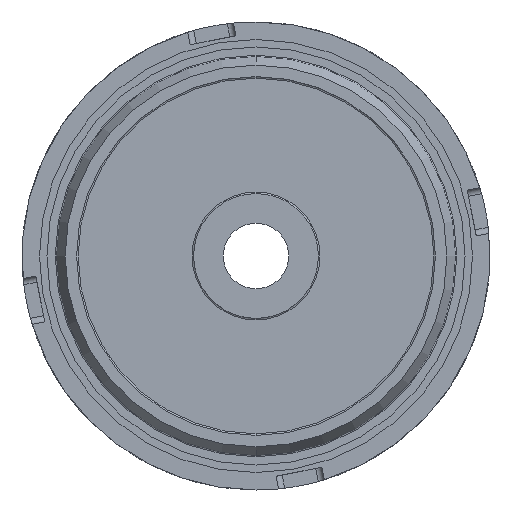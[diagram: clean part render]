
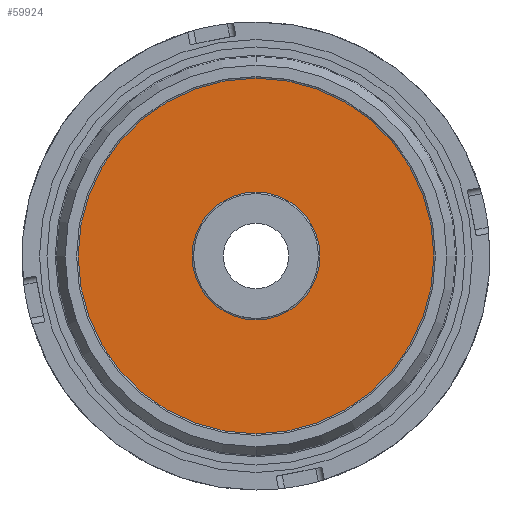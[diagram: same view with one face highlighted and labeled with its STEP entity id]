
A CAD part, front view. The second image highlights one B-rep face of the part: STEP entity #59924.
In plain terms, the highlighted planar face has unit normal (0, -1, 0).
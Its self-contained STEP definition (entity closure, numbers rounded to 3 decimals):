
#496 = AXIS2_PLACEMENT_3D ( 'NONE', #15467, #51184, #20614 ) ;
#724 = VERTEX_POINT ( 'NONE', #28121 ) ;
#1622 = CARTESIAN_POINT ( 'NONE',  ( 0., 6., 0. ) ) ;
#2802 = AXIS2_PLACEMENT_3D ( 'NONE', #32220, #16770, #6635 ) ;
#4079 = AXIS2_PLACEMENT_3D ( 'NONE', #1622, #37500, #6766 ) ;
#6635 = DIRECTION ( 'NONE',  ( 0., 0., -1. ) ) ;
#6766 = DIRECTION ( 'NONE',  ( 0., 0., -1. ) ) ;
#8761 = ORIENTED_EDGE ( 'NONE', *, *, #17124, .T. ) ;
#10712 = VERTEX_POINT ( 'NONE', #41350 ) ;
#11520 = CARTESIAN_POINT ( 'NONE',  ( 0., 6., 0. ) ) ;
#13693 = AXIS2_PLACEMENT_3D ( 'NONE', #11520, #47285, #16695 ) ;
#15467 = CARTESIAN_POINT ( 'NONE',  ( 0., 6., 0. ) ) ;
#15592 = VERTEX_POINT ( 'NONE', #41252 ) ;
#16695 = DIRECTION ( 'NONE',  ( 0., 0., -1. ) ) ;
#16770 = DIRECTION ( 'NONE',  ( 0., -1., 0. ) ) ;
#17124 = EDGE_CURVE ( 'NONE', #10712, #58409, #62197, .T. ) ;
#20561 = EDGE_CURVE ( 'NONE', #15592, #724, #55938, .T. ) ;
#20614 = DIRECTION ( 'NONE',  ( 0., 0., -1. ) ) ;
#21878 = EDGE_CURVE ( 'NONE', #724, #15592, #65383, .T. ) ;
#23733 = EDGE_LOOP ( 'NONE', ( #46191, #52768 ) ) ;
#24432 = EDGE_LOOP ( 'NONE', ( #48503, #8761 ) ) ;
#25708 = DIRECTION ( 'NONE',  ( 0., -1., 0. ) ) ;
#26326 = FACE_BOUND ( 'NONE', #24432, .T. ) ;
#28121 = CARTESIAN_POINT ( 'NONE',  ( 0., 6., 57. ) ) ;
#32220 = CARTESIAN_POINT ( 'NONE',  ( 0., 6., 0. ) ) ;
#37362 = PLANE ( 'NONE',  #2802 ) ;
#37500 = DIRECTION ( 'NONE',  ( 0., 1., 0. ) ) ;
#38253 = CARTESIAN_POINT ( 'NONE',  ( 0., 6., -20.5 ) ) ;
#41252 = CARTESIAN_POINT ( 'NONE',  ( 0., 6., -57. ) ) ;
#41350 = CARTESIAN_POINT ( 'NONE',  ( 0., 6., 20.5 ) ) ;
#45839 = EDGE_CURVE ( 'NONE', #58409, #10712, #62808, .T. ) ;
#46191 = ORIENTED_EDGE ( 'NONE', *, *, #20561, .T. ) ;
#47285 = DIRECTION ( 'NONE',  ( 0., 1., 0. ) ) ;
#48503 = ORIENTED_EDGE ( 'NONE', *, *, #45839, .T. ) ;
#51184 = DIRECTION ( 'NONE',  ( 0., -1., 0. ) ) ;
#52768 = ORIENTED_EDGE ( 'NONE', *, *, #21878, .T. ) ;
#53417 = FACE_OUTER_BOUND ( 'NONE', #23733, .T. ) ;
#55938 = CIRCLE ( 'NONE', #496, 57. ) ;
#56264 = CARTESIAN_POINT ( 'NONE',  ( 0., 6., 0. ) ) ;
#57524 = AXIS2_PLACEMENT_3D ( 'NONE', #56264, #25708, #61401 ) ;
#58409 = VERTEX_POINT ( 'NONE', #38253 ) ;
#59924 = ADVANCED_FACE ( 'NONE', ( #53417, #26326 ), #37362, .T. ) ;
#61401 = DIRECTION ( 'NONE',  ( 0., 0., -1. ) ) ;
#62197 = CIRCLE ( 'NONE', #4079, 20.5 ) ;
#62808 = CIRCLE ( 'NONE', #13693, 20.5 ) ;
#65383 = CIRCLE ( 'NONE', #57524, 57. ) ;
